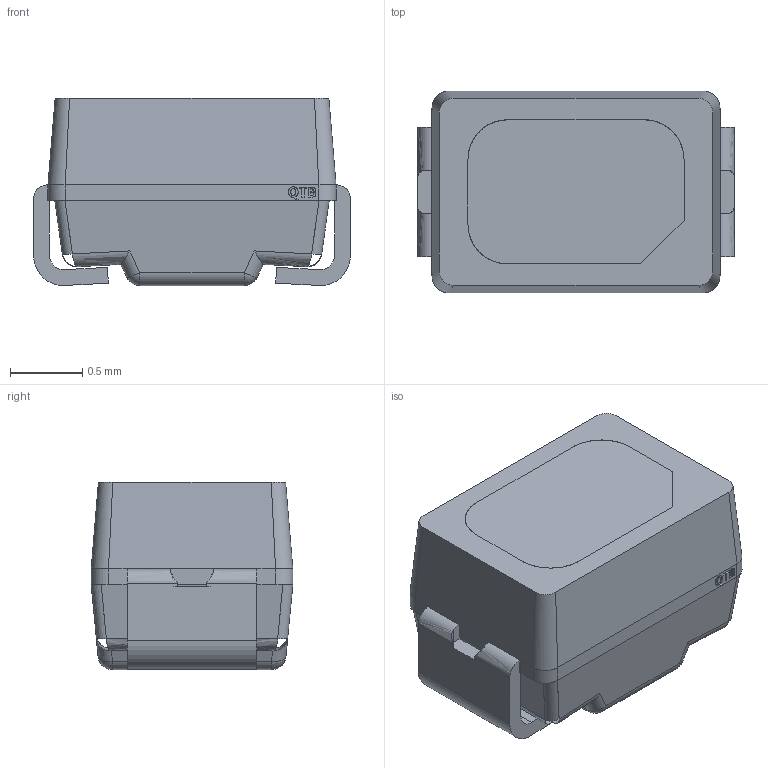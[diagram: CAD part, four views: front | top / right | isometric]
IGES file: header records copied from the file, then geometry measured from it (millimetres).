
Start section: Data from Parasolid IGES Translator 23.1.110, Copyright(c) 2006 Siemens PLM Software. All Rights Reserved.
Global section: file name: 5fab11a5a90bb40f56aa8442.iges; native system: By Siemens PLM Incorporated; preprocessor: XPlus GENERIC/IGES 23.1.110; author: Noname; organization: Noname; date: 20201110.221813; units: metre
Bounding box: 2.2 x 1.4 x 1.3 mm (x, y, z)
Surface area: 29.5 mm2 (no closed solid volume)
Topology: 0 solids, 0 shells, 179 faces, 1030 edges, 1026 vertices
Faces by surface type: extrusion 122, revolution 39, bspline 18
